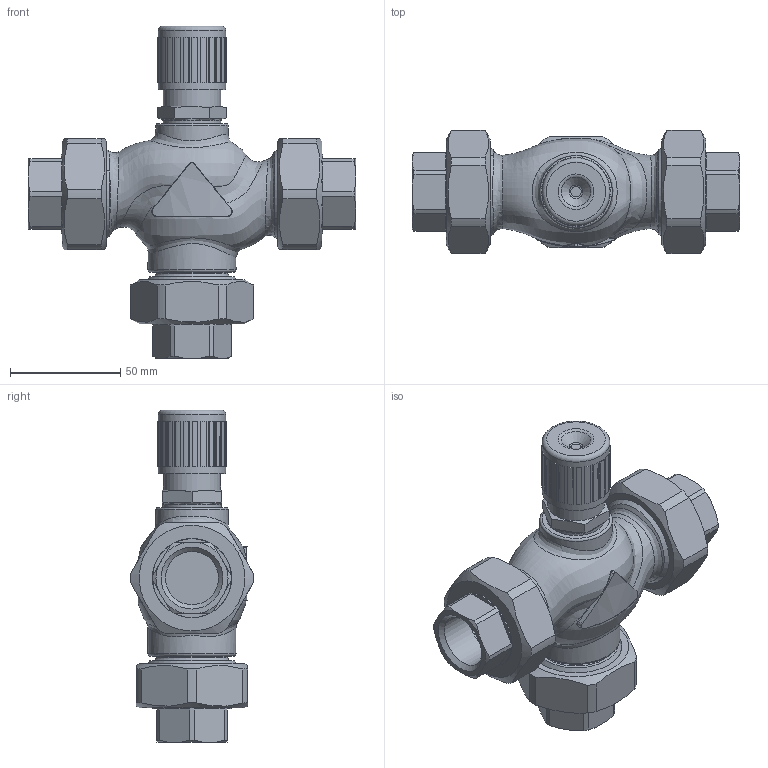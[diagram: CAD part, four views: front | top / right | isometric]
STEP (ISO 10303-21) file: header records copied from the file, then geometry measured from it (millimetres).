
FILE_DESCRIPTION(/* description */ (''),/* implementation_level */ '2;1');
FILE_NAME(/* name */ 'rv111r_dn20_3_T.stp',/* time_stamp */ '2012-02-21T11:28:01+01:00',/* author */ ('KLIMES'),/* organization */ ('LDM'),/* preprocessor_version */ 'ST-DEVELOPER v11',/* originating_system */ 'SIEMENS PLM Software NX 7.0',/* authorisation */ '');
FILE_SCHEMA (('CONFIG_CONTROL_DESIGN'));
Length unit declared in the file: millimetre
Products named in the file (1): klim56BEqbja
Bounding box: 149 x 55.98 x 150.9 mm (x, y, z)
Volume: 312835.1 mm3; surface area: 75955.8 mm2
Topology: 11 solids, 11 shells, 371 faces, 884 edges, 576 vertices
Faces by surface type: plane 199, cone 74, cylinder 58, bspline 25, torus 15
Full cylindrical faces by diameter (mm): 8 x1, 23.4 x1, 24.117 x4, 26 x1, 26.5 x1, 27.5 x3, 28 x3, 30.8 x1, 32.5 x1, 33 x1, 35.8 x3, 36 x3, 38 x3, 38.8 x3, 38.952 x3, 40 x1, 41.91 x3
Entity records: 16055 total; most frequent: CARTESIAN_POINT 7946, DIRECTION 1642, ORIENTED_EDGE 1554, EDGE_CURVE 777, AXIS2_PLACEMENT_3D 665, VERTEX_POINT 543, EDGE_LOOP 504, ADVANCED_FACE 371
